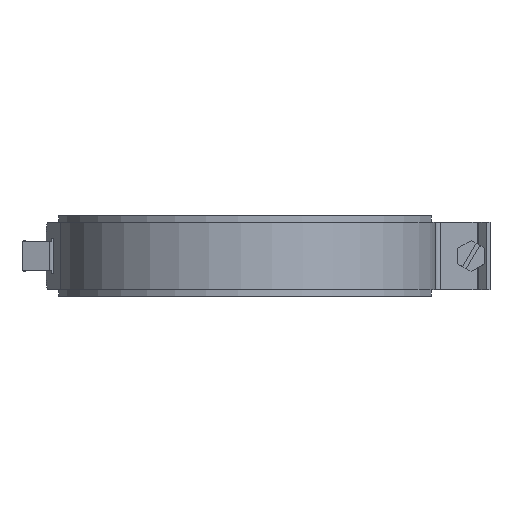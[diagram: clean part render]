
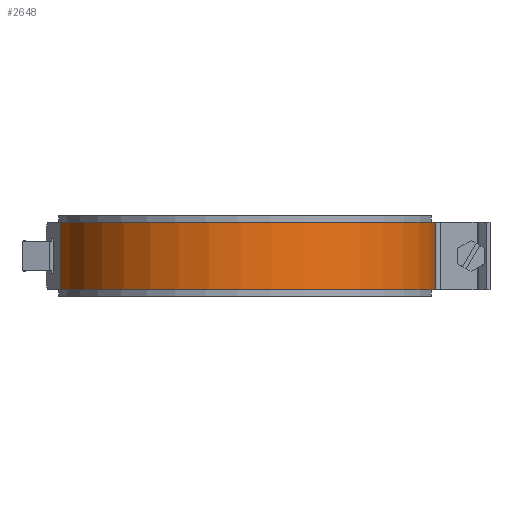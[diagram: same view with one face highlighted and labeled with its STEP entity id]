
A CAD part, front view. The second image highlights one B-rep face of the part: STEP entity #2648.
In plain terms, the highlighted cylindrical face has radius 70.5 mm (diameter 141 mm), a partial arc.
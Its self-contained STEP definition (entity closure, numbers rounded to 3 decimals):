
#84=CYLINDRICAL_SURFACE($,#2882,70.5);
#186=FACE_OUTER_BOUND($,#325,.T.);
#325=EDGE_LOOP($,(#2091,#2092,#2093,#2094,#2095,#2096));
#424=CIRCLE($,#2777,70.5);
#426=CIRCLE($,#2780,70.5);
#445=CIRCLE($,#2821,70.5);
#469=CIRCLE($,#2883,70.5);
#664=LINE($,#4262,#917);
#670=LINE($,#4284,#923);
#917=VECTOR($,#3479,25.);
#923=VECTOR($,#3509,25.);
#1075=VERTEX_POINT($,#3937);
#1076=VERTEX_POINT($,#3939);
#1079=VERTEX_POINT($,#3947);
#1080=VERTEX_POINT($,#3948);
#1121=VERTEX_POINT($,#4076);
#1187=VERTEX_POINT($,#4283);
#1351=EDGE_CURVE($,#1075,#1076,#424,.T.);
#1355=EDGE_CURVE($,#1079,#1080,#426,.T.);
#1420=EDGE_CURVE($,#1076,#1121,#445,.T.);
#1505=EDGE_CURVE($,#1075,#1080,#664,.T.);
#1516=EDGE_CURVE($,#1121,#1187,#670,.T.);
#1517=EDGE_CURVE($,#1187,#1079,#469,.T.);
#2091=ORIENTED_EDGE($,*,*,#1516,.F.);
#2092=ORIENTED_EDGE($,*,*,#1420,.F.);
#2093=ORIENTED_EDGE($,*,*,#1351,.F.);
#2094=ORIENTED_EDGE($,*,*,#1505,.T.);
#2095=ORIENTED_EDGE($,*,*,#1355,.F.);
#2096=ORIENTED_EDGE($,*,*,#1517,.F.);
#2648=ADVANCED_FACE($,(#186),#84,.T.);
#2777=AXIS2_PLACEMENT_3D($,#3940,#3180,#3181);
#2780=AXIS2_PLACEMENT_3D($,#3949,#3188,#3189);
#2821=AXIS2_PLACEMENT_3D($,#4077,#3316,#3317);
#2882=AXIS2_PLACEMENT_3D($,#4282,#3507,#3508);
#2883=AXIS2_PLACEMENT_3D($,#4285,#3510,#3511);
#3180=DIRECTION('center_axis',(0.,0.,1.));
#3181=DIRECTION('ref_axis',(0.98,0.199,0.));
#3188=DIRECTION('center_axis',(0.,0.,-1.));
#3189=DIRECTION('ref_axis',(0.98,0.199,0.));
#3316=DIRECTION('center_axis',(0.,0.,1.));
#3317=DIRECTION('ref_axis',(0.98,0.199,0.));
#3479=DIRECTION($,(0.,0.,-1.));
#3507=DIRECTION('center_axis',(0.,0.,1.));
#3508=DIRECTION('ref_axis',(0.98,0.199,0.));
#3509=DIRECTION($,(0.,0.,-1.));
#3510=DIRECTION('center_axis',(0.,0.,-1.));
#3511=DIRECTION('ref_axis',(0.98,0.199,0.));
#3937=CARTESIAN_POINT('',(-69.085,-14.055,12.5));
#3939=CARTESIAN_POINT('',(68.098,-18.247,12.5));
#3940=CARTESIAN_POINT('Origin',(0.,0.,12.5));
#3947=CARTESIAN_POINT('',(68.098,-18.247,-12.5));
#3948=CARTESIAN_POINT('',(-69.085,-14.055,-12.5));
#3949=CARTESIAN_POINT('Origin',(0.,0.,-12.5));
#4076=CARTESIAN_POINT('',(70.258,-5.834,12.5));
#4077=CARTESIAN_POINT('Origin',(0.,0.,12.5));
#4262=CARTESIAN_POINT($,(-69.085,-14.055,0.));
#4282=CARTESIAN_POINT('Origin',(0.,0.,0.));
#4283=CARTESIAN_POINT('',(70.258,-5.834,-12.5));
#4284=CARTESIAN_POINT($,(70.258,-5.834,0.));
#4285=CARTESIAN_POINT('Origin',(0.,0.,-12.5));
